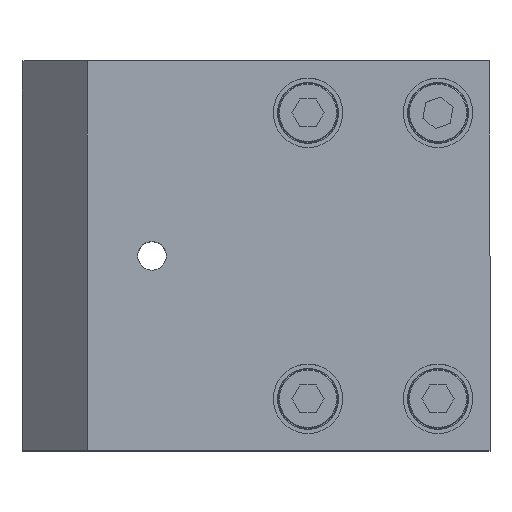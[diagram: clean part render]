
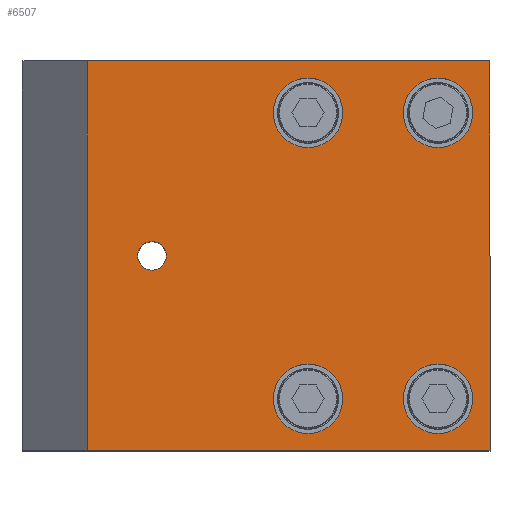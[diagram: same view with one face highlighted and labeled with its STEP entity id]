
A CAD part, top view. The second image highlights one B-rep face of the part: STEP entity #6507.
In plain terms, the highlighted planar face has unit normal (0, 0, 1).
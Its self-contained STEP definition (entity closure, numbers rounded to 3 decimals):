
#58 = EDGE_CURVE ( 'NONE', #2654, #842, #8195, .T. ) ;
#112 = ORIENTED_EDGE ( 'NONE', *, *, #7043, .F. ) ;
#146 = EDGE_CURVE ( 'NONE', #8404, #1965, #5714, .T. ) ;
#223 = ORIENTED_EDGE ( 'NONE', *, *, #58, .F. ) ;
#258 = AXIS2_PLACEMENT_3D ( 'NONE', #1031, #6915, #359 ) ;
#271 = DIRECTION ( 'NONE',  ( 1., 0., 0. ) ) ;
#274 = CARTESIAN_POINT ( 'NONE',  ( 25., 16.5, 25. ) ) ;
#299 = ORIENTED_EDGE ( 'NONE', *, *, #4434, .F. ) ;
#310 = CARTESIAN_POINT ( 'NONE',  ( -10.35, 0., 25. ) ) ;
#357 = CARTESIAN_POINT ( 'NONE',  ( -19.5, 22.5, 25. ) ) ;
#359 = DIRECTION ( 'NONE',  ( 1., 0., 0. ) ) ;
#437 = VECTOR ( 'NONE', #4036, 1000. ) ;
#525 = EDGE_LOOP ( 'NONE', ( #112, #223 ) ) ;
#719 = FACE_OUTER_BOUND ( 'NONE', #7912, .T. ) ;
#807 = VERTEX_POINT ( 'NONE', #274 ) ;
#842 = VERTEX_POINT ( 'NONE', #7480 ) ;
#1031 = CARTESIAN_POINT ( 'NONE',  ( 6., -16.5, 25. ) ) ;
#1034 = ORIENTED_EDGE ( 'NONE', *, *, #3773, .T. ) ;
#1087 = PLANE ( 'NONE',  #7388 ) ;
#1225 = ORIENTED_EDGE ( 'NONE', *, *, #6653, .F. ) ;
#1315 = CARTESIAN_POINT ( 'NONE',  ( 6., -16.5, 25. ) ) ;
#1405 = DIRECTION ( 'NONE',  ( 0., 0., 1. ) ) ;
#1553 = EDGE_LOOP ( 'NONE', ( #4287, #3971 ) ) ;
#1591 = VERTEX_POINT ( 'NONE', #7760 ) ;
#1693 = AXIS2_PLACEMENT_3D ( 'NONE', #3733, #7055, #6375 ) ;
#1732 = DIRECTION ( 'NONE',  ( 0., 0., 1. ) ) ;
#1793 = ORIENTED_EDGE ( 'NONE', *, *, #7604, .T. ) ;
#1838 = FACE_BOUND ( 'NONE', #1553, .T. ) ;
#1861 = DIRECTION ( 'NONE',  ( 1., 0., 0. ) ) ;
#1870 = CARTESIAN_POINT ( 'NONE',  ( 10., -16.5, 25. ) ) ;
#1924 = FACE_BOUND ( 'NONE', #525, .T. ) ;
#1965 = VERTEX_POINT ( 'NONE', #357 ) ;
#1970 = EDGE_CURVE ( 'NONE', #807, #5104, #4951, .T. ) ;
#2106 = AXIS2_PLACEMENT_3D ( 'NONE', #5669, #7108, #1861 ) ;
#2185 = CARTESIAN_POINT ( 'NONE',  ( 21., -16.5, 25. ) ) ;
#2242 = CIRCLE ( 'NONE', #4295, 4. ) ;
#2286 = CIRCLE ( 'NONE', #4158, 1.65 ) ;
#2384 = EDGE_CURVE ( 'NONE', #5104, #807, #8160, .T. ) ;
#2422 = CARTESIAN_POINT ( 'NONE',  ( 21., 16.5, 25. ) ) ;
#2627 = CARTESIAN_POINT ( 'NONE',  ( 27., 22.5, 25. ) ) ;
#2654 = VERTEX_POINT ( 'NONE', #7595 ) ;
#2671 = CARTESIAN_POINT ( 'NONE',  ( 27., 22.5, 25. ) ) ;
#2958 = CARTESIAN_POINT ( 'NONE',  ( -27., -22.5, 25. ) ) ;
#3029 = AXIS2_PLACEMENT_3D ( 'NONE', #6633, #1405, #7215 ) ;
#3035 = AXIS2_PLACEMENT_3D ( 'NONE', #1315, #5970, #7945 ) ;
#3065 = CARTESIAN_POINT ( 'NONE',  ( 27., -22.5, 25. ) ) ;
#3100 = LINE ( 'NONE', #8073, #5666 ) ;
#3420 = CARTESIAN_POINT ( 'NONE',  ( 25., -16.5, 25. ) ) ;
#3526 = CARTESIAN_POINT ( 'NONE',  ( -12., 0., 25. ) ) ;
#3531 = DIRECTION ( 'NONE',  ( 1., 0., 0. ) ) ;
#3546 = EDGE_CURVE ( 'NONE', #1591, #8381, #7527, .T. ) ;
#3564 = FACE_BOUND ( 'NONE', #6022, .T. ) ;
#3569 = VERTEX_POINT ( 'NONE', #3065 ) ;
#3639 = EDGE_CURVE ( 'NONE', #6999, #6514, #5236, .T. ) ;
#3647 = EDGE_LOOP ( 'NONE', ( #8249, #1225 ) ) ;
#3668 = CIRCLE ( 'NONE', #4139, 4. ) ;
#3733 = CARTESIAN_POINT ( 'NONE',  ( 21., 16.5, 25. ) ) ;
#3773 = EDGE_CURVE ( 'NONE', #1965, #6224, #3100, .T. ) ;
#3971 = ORIENTED_EDGE ( 'NONE', *, *, #3546, .F. ) ;
#4036 = DIRECTION ( 'NONE',  ( 1., 0., 0. ) ) ;
#4139 = AXIS2_PLACEMENT_3D ( 'NONE', #2185, #6769, #7438 ) ;
#4158 = AXIS2_PLACEMENT_3D ( 'NONE', #3526, #4185, #271 ) ;
#4185 = DIRECTION ( 'NONE',  ( 0., 0., 1. ) ) ;
#4287 = ORIENTED_EDGE ( 'NONE', *, *, #6079, .F. ) ;
#4295 = AXIS2_PLACEMENT_3D ( 'NONE', #4515, #4456, #8478 ) ;
#4380 = ORIENTED_EDGE ( 'NONE', *, *, #2384, .F. ) ;
#4434 = EDGE_CURVE ( 'NONE', #6514, #6999, #2286, .T. ) ;
#4456 = DIRECTION ( 'NONE',  ( 0., 0., 1. ) ) ;
#4515 = CARTESIAN_POINT ( 'NONE',  ( 21., -16.5, 25. ) ) ;
#4525 = DIRECTION ( 'NONE',  ( 0., 1., 0. ) ) ;
#4902 = ORIENTED_EDGE ( 'NONE', *, *, #7159, .T. ) ;
#4951 = CIRCLE ( 'NONE', #5052, 4. ) ;
#5010 = LINE ( 'NONE', #2958, #437 ) ;
#5052 = AXIS2_PLACEMENT_3D ( 'NONE', #2422, #5813, #5109 ) ;
#5104 = VERTEX_POINT ( 'NONE', #6120 ) ;
#5109 = DIRECTION ( 'NONE',  ( 1., 0., 0. ) ) ;
#5231 = DIRECTION ( 'NONE',  ( -1., 0., 0. ) ) ;
#5236 = CIRCLE ( 'NONE', #7029, 1.65 ) ;
#5284 = ORIENTED_EDGE ( 'NONE', *, *, #3639, .F. ) ;
#5388 = FACE_BOUND ( 'NONE', #3647, .T. ) ;
#5418 = CARTESIAN_POINT ( 'NONE',  ( -12., 0., 25. ) ) ;
#5504 = ORIENTED_EDGE ( 'NONE', *, *, #1970, .F. ) ;
#5644 = CIRCLE ( 'NONE', #3035, 4. ) ;
#5651 = CARTESIAN_POINT ( 'NONE',  ( 0., 0., 25. ) ) ;
#5666 = VECTOR ( 'NONE', #8027, 1000. ) ;
#5669 = CARTESIAN_POINT ( 'NONE',  ( 6., 16.5, 25. ) ) ;
#5714 = LINE ( 'NONE', #6610, #6126 ) ;
#5813 = DIRECTION ( 'NONE',  ( 0., 0., 1. ) ) ;
#5970 = DIRECTION ( 'NONE',  ( 0., 0., 1. ) ) ;
#6022 = EDGE_LOOP ( 'NONE', ( #5284, #299 ) ) ;
#6079 = EDGE_CURVE ( 'NONE', #8381, #1591, #5644, .T. ) ;
#6120 = CARTESIAN_POINT ( 'NONE',  ( 17., 16.5, 25. ) ) ;
#6126 = VECTOR ( 'NONE', #5231, 1000. ) ;
#6224 = VERTEX_POINT ( 'NONE', #7964 ) ;
#6375 = DIRECTION ( 'NONE',  ( 1., 0., 0. ) ) ;
#6390 = EDGE_LOOP ( 'NONE', ( #5504, #4380 ) ) ;
#6410 = CIRCLE ( 'NONE', #2106, 4. ) ;
#6507 = ADVANCED_FACE ( 'NONE', ( #3564, #1924, #7169, #1838, #5388, #719 ), #1087, .T. ) ;
#6514 = VERTEX_POINT ( 'NONE', #8285 ) ;
#6610 = CARTESIAN_POINT ( 'NONE',  ( -27., 22.5, 25. ) ) ;
#6633 = CARTESIAN_POINT ( 'NONE',  ( 6., 16.5, 25. ) ) ;
#6653 = EDGE_CURVE ( 'NONE', #8311, #7731, #2242, .T. ) ;
#6710 = DIRECTION ( 'NONE',  ( 0., 0., 1. ) ) ;
#6769 = DIRECTION ( 'NONE',  ( 0., 0., 1. ) ) ;
#6915 = DIRECTION ( 'NONE',  ( 0., 0., 1. ) ) ;
#6934 = VECTOR ( 'NONE', #4525, 1000. ) ;
#6982 = DIRECTION ( 'NONE',  ( 1., 0., 0. ) ) ;
#6999 = VERTEX_POINT ( 'NONE', #310 ) ;
#7029 = AXIS2_PLACEMENT_3D ( 'NONE', #5418, #6710, #3531 ) ;
#7043 = EDGE_CURVE ( 'NONE', #842, #2654, #6410, .T. ) ;
#7055 = DIRECTION ( 'NONE',  ( 0., 0., 1. ) ) ;
#7108 = DIRECTION ( 'NONE',  ( 0., 0., 1. ) ) ;
#7159 = EDGE_CURVE ( 'NONE', #3569, #8404, #7938, .T. ) ;
#7169 = FACE_BOUND ( 'NONE', #6390, .T. ) ;
#7215 = DIRECTION ( 'NONE',  ( 1., 0., 0. ) ) ;
#7388 = AXIS2_PLACEMENT_3D ( 'NONE', #5651, #1732, #6982 ) ;
#7438 = DIRECTION ( 'NONE',  ( 1., 0., 0. ) ) ;
#7480 = CARTESIAN_POINT ( 'NONE',  ( 10., 16.5, 25. ) ) ;
#7527 = CIRCLE ( 'NONE', #258, 4. ) ;
#7595 = CARTESIAN_POINT ( 'NONE',  ( 2., 16.5, 25. ) ) ;
#7604 = EDGE_CURVE ( 'NONE', #6224, #3569, #5010, .T. ) ;
#7731 = VERTEX_POINT ( 'NONE', #3420 ) ;
#7760 = CARTESIAN_POINT ( 'NONE',  ( 2., -16.5, 25. ) ) ;
#7830 = CARTESIAN_POINT ( 'NONE',  ( 17., -16.5, 25. ) ) ;
#7912 = EDGE_LOOP ( 'NONE', ( #8447, #1034, #1793, #4902 ) ) ;
#7938 = LINE ( 'NONE', #2627, #6934 ) ;
#7945 = DIRECTION ( 'NONE',  ( 1., 0., 0. ) ) ;
#7964 = CARTESIAN_POINT ( 'NONE',  ( -19.5, -22.5, 25. ) ) ;
#8027 = DIRECTION ( 'NONE',  ( 0., -1., 0. ) ) ;
#8073 = CARTESIAN_POINT ( 'NONE',  ( -19.5, -22.5, 25. ) ) ;
#8160 = CIRCLE ( 'NONE', #1693, 4. ) ;
#8195 = CIRCLE ( 'NONE', #3029, 4. ) ;
#8249 = ORIENTED_EDGE ( 'NONE', *, *, #8462, .F. ) ;
#8285 = CARTESIAN_POINT ( 'NONE',  ( -13.65, 0., 25. ) ) ;
#8311 = VERTEX_POINT ( 'NONE', #7830 ) ;
#8381 = VERTEX_POINT ( 'NONE', #1870 ) ;
#8404 = VERTEX_POINT ( 'NONE', #2671 ) ;
#8447 = ORIENTED_EDGE ( 'NONE', *, *, #146, .T. ) ;
#8462 = EDGE_CURVE ( 'NONE', #7731, #8311, #3668, .T. ) ;
#8478 = DIRECTION ( 'NONE',  ( 1., 0., 0. ) ) ;
